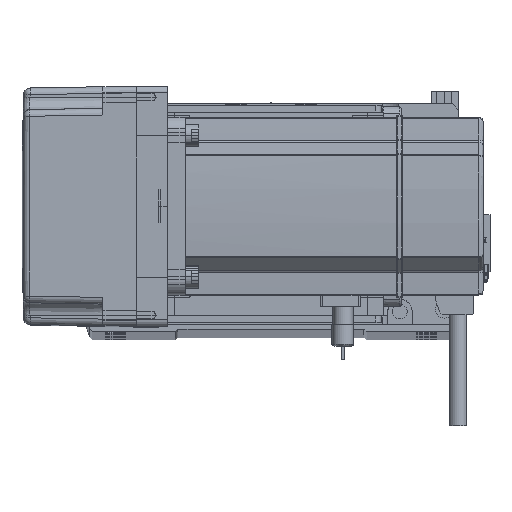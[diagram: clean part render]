
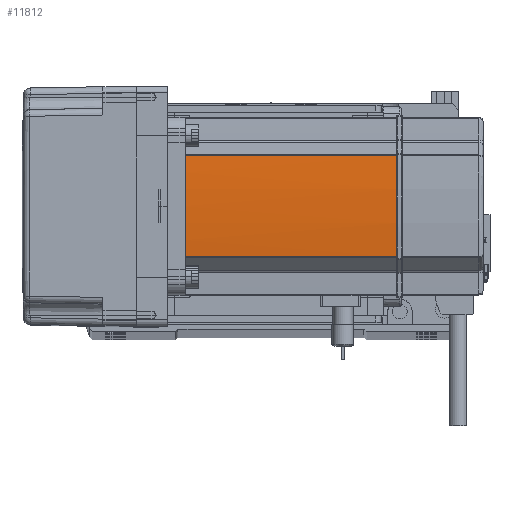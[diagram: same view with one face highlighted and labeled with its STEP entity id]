
A CAD part, top view. The second image highlights one B-rep face of the part: STEP entity #11812.
In plain terms, the highlighted cylindrical face has radius 270 mm (diameter 540 mm), a partial arc.
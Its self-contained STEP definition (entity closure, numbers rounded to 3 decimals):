
#598 = DIRECTION ( 'NONE',  ( 0., 0., -1. ) ) ;
#1217 = CARTESIAN_POINT ( 'NONE',  ( -230., 0., 39. ) ) ;
#3998 = CARTESIAN_POINT ( 'NONE',  ( 40., -0.042, 134. ) ) ;
#5112 = VERTEX_POINT ( 'NONE', #49797 ) ;
#5374 = CARTESIAN_POINT ( 'NONE',  ( 40., 0.127, 134. ) ) ;
#6796 = DIRECTION ( 'NONE',  ( -1., 0., 0. ) ) ;
#7070 = AXIS2_PLACEMENT_3D ( 'NONE', #15581, #49385, #54067 ) ;
#7288 = ORIENTED_EDGE ( 'NONE', *, *, #19145, .T. ) ;
#7671 = DIRECTION ( 'NONE',  ( 0., 0., -1. ) ) ;
#7861 = CARTESIAN_POINT ( 'NONE',  ( 39.042, -22.724, 134. ) ) ;
#8348 = AXIS2_PLACEMENT_3D ( 'NONE', #36045, #7671, #17375 ) ;
#8802 = DIRECTION ( 'NONE',  ( 0., 0., 1. ) ) ;
#8832 = CARTESIAN_POINT ( 'NONE',  ( 40., 0.042, 134. ) ) ;
#11812 = ADVANCED_FACE ( 'NONE', ( #15319 ), #14590, .T. ) ;
#14203 = VECTOR ( 'NONE', #22042, 1000. ) ;
#14590 = CYLINDRICAL_SURFACE ( 'NONE', #32293, 270. ) ;
#15319 = FACE_OUTER_BOUND ( 'NONE', #58651, .T. ) ;
#15581 = CARTESIAN_POINT ( 'NONE',  ( -230., 0., 134. ) ) ;
#17223 = VERTEX_POINT ( 'NONE', #5374 ) ;
#17375 = DIRECTION ( 'NONE',  ( -1., 0., 0. ) ) ;
#17533 = VERTEX_POINT ( 'NONE', #7861 ) ;
#18561 = ORIENTED_EDGE ( 'NONE', *, *, #30455, .T. ) ;
#19145 = EDGE_CURVE ( 'NONE', #17533, #50725, #27029, .T. ) ;
#22042 = DIRECTION ( 'NONE',  ( 0., 0., -1. ) ) ;
#22310 = CARTESIAN_POINT ( 'NONE',  ( 39.042, -22.724, 39. ) ) ;
#23852 = CARTESIAN_POINT ( 'NONE',  ( 40., -0.127, 134. ) ) ;
#25154 = CIRCLE ( 'NONE', #57794, 270. ) ;
#26624 = EDGE_CURVE ( 'NONE', #40287, #5112, #62022, .T. ) ;
#26651 = DIRECTION ( 'NONE',  ( 0., 0., -1. ) ) ;
#26759 = ORIENTED_EDGE ( 'NONE', *, *, #26624, .T. ) ;
#27029 = LINE ( 'NONE', #44711, #14203 ) ;
#30455 = EDGE_CURVE ( 'NONE', #5112, #17223, #55560, .T. ) ;
#30538 = ORIENTED_EDGE ( 'NONE', *, *, #41279, .T. ) ;
#30907 = CARTESIAN_POINT ( 'NONE',  ( -230., 0., 58. ) ) ;
#31110 = CIRCLE ( 'NONE', #8348, 270. ) ;
#31849 = ORIENTED_EDGE ( 'NONE', *, *, #46936, .F. ) ;
#32293 = AXIS2_PLACEMENT_3D ( 'NONE', #30907, #26651, #6796 ) ;
#32780 = CARTESIAN_POINT ( 'NONE',  ( 39.042, 22.724, 39. ) ) ;
#33405 = EDGE_CURVE ( 'NONE', #40287, #50725, #25154, .T. ) ;
#34827 = VERTEX_POINT ( 'NONE', #48787 ) ;
#36045 = CARTESIAN_POINT ( 'NONE',  ( -230., 0., 134. ) ) ;
#39351 = DIRECTION ( 'NONE',  ( -1., 0., 0. ) ) ;
#40287 = VERTEX_POINT ( 'NONE', #32780 ) ;
#41279 = EDGE_CURVE ( 'NONE', #34827, #17533, #31110, .T. ) ;
#41938 = ORIENTED_EDGE ( 'NONE', *, *, #33405, .F. ) ;
#42232 = CARTESIAN_POINT ( 'NONE',  ( 39.042, 22.724, 58. ) ) ;
#44711 = CARTESIAN_POINT ( 'NONE',  ( 39.042, -22.724, 58. ) ) ;
#46936 = EDGE_CURVE ( 'NONE', #34827, #17223, #51559, .T. ) ;
#48787 = CARTESIAN_POINT ( 'NONE',  ( 40., -0.127, 134. ) ) ;
#49385 = DIRECTION ( 'NONE',  ( 0., 0., -1. ) ) ;
#49797 = CARTESIAN_POINT ( 'NONE',  ( 39.042, 22.724, 134. ) ) ;
#50725 = VERTEX_POINT ( 'NONE', #22310 ) ;
#51559 = B_SPLINE_CURVE_WITH_KNOTS ( 'NONE', 3,
 ( #23852, #3998, #8832, #57245 ),
 .UNSPECIFIED., .F., .F.,
 ( 4, 4 ),
 ( 0., 1. ),
 .UNSPECIFIED. ) ;
#54067 = DIRECTION ( 'NONE',  ( -1., 0., 0. ) ) ;
#55560 = CIRCLE ( 'NONE', #7070, 270. ) ;
#57245 = CARTESIAN_POINT ( 'NONE',  ( 40., 0.127, 134. ) ) ;
#57794 = AXIS2_PLACEMENT_3D ( 'NONE', #1217, #598, #39351 ) ;
#58179 = VECTOR ( 'NONE', #8802, 1000. ) ;
#58651 = EDGE_LOOP ( 'NONE', ( #7288, #41938, #26759, #18561, #31849, #30538 ) ) ;
#62022 = LINE ( 'NONE', #42232, #58179 ) ;
